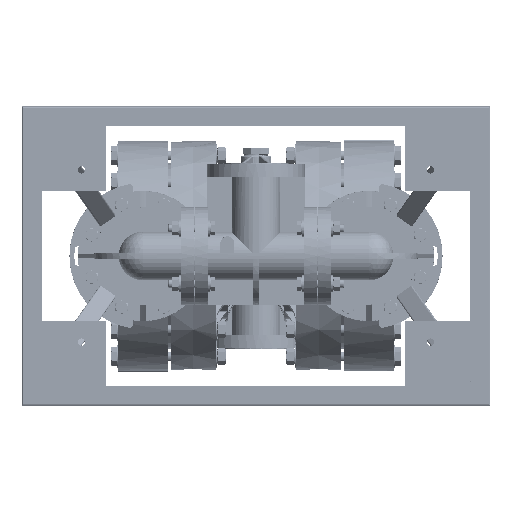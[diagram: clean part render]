
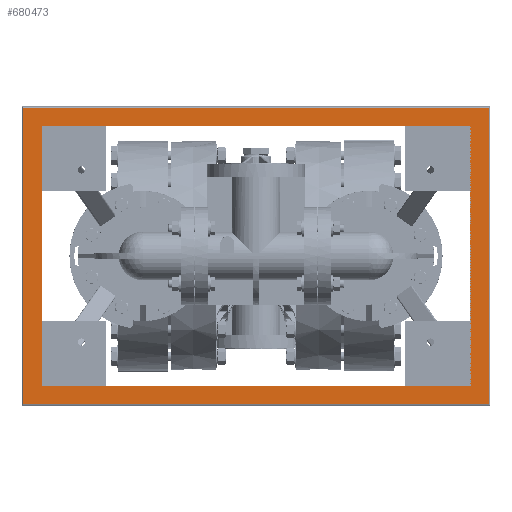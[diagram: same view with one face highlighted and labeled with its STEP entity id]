
A CAD part, front view. The second image highlights one B-rep face of the part: STEP entity #680473.
In plain terms, the highlighted planar face has unit normal (0, -1, 0).
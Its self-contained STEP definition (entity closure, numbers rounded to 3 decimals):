
#49429 = FACE_BOUND ( 'NONE', #68869, .T. ) ;
#63027 = EDGE_CURVE ( 'NONE', #442045, #528501, #512066, .T. ) ;
#68869 = EDGE_LOOP ( 'NONE', ( #655518, #529963, #307968, #427928 ) ) ;
#72889 = EDGE_CURVE ( 'NONE', #581167, #442045, #131781, .T. ) ;
#89578 = ORIENTED_EDGE ( 'NONE', *, *, #95522, .T. ) ;
#95522 = EDGE_CURVE ( 'NONE', #528501, #720667, #349864, .T. ) ;
#113985 = CARTESIAN_POINT ( 'NONE',  ( 17.89, -26.434, 11.39 ) ) ;
#131781 = LINE ( 'NONE', #371575, #475653 ) ;
#142897 = ORIENTED_EDGE ( 'NONE', *, *, #744663, .T. ) ;
#147245 = CARTESIAN_POINT ( 'NONE',  ( -17.89, -26.434, -11.39 ) ) ;
#182173 = EDGE_CURVE ( 'NONE', #258181, #576201, #778700, .T. ) ;
#212252 = DIRECTION ( 'NONE',  ( -1., 0., 0. ) ) ;
#218618 = CARTESIAN_POINT ( 'NONE',  ( 16.5, -26.434, -10. ) ) ;
#226066 = DIRECTION ( 'NONE',  ( -1., 0., 0. ) ) ;
#235779 = CARTESIAN_POINT ( 'NONE',  ( -16.5, -26.434, -10. ) ) ;
#246163 = VECTOR ( 'NONE', #398166, 39.37 ) ;
#256471 = VECTOR ( 'NONE', #226066, 39.37 ) ;
#258181 = VERTEX_POINT ( 'NONE', #510275 ) ;
#259563 = DIRECTION ( 'NONE',  ( 1., 0., 0. ) ) ;
#271138 = VERTEX_POINT ( 'NONE', #692270 ) ;
#286114 = LINE ( 'NONE', #338173, #246163 ) ;
#289265 = CARTESIAN_POINT ( 'NONE',  ( 0., -26.434, 0. ) ) ;
#293192 = FACE_OUTER_BOUND ( 'NONE', #465568, .T. ) ;
#303235 = ORIENTED_EDGE ( 'NONE', *, *, #72889, .T. ) ;
#307968 = ORIENTED_EDGE ( 'NONE', *, *, #182173, .F. ) ;
#316377 = VECTOR ( 'NONE', #467145, 39.37 ) ;
#323927 = EDGE_CURVE ( 'NONE', #271138, #258181, #428450, .T. ) ;
#325980 = VERTEX_POINT ( 'NONE', #524017 ) ;
#330568 = CARTESIAN_POINT ( 'NONE',  ( -17.89, -26.434, 11.39 ) ) ;
#331839 = ORIENTED_EDGE ( 'NONE', *, *, #63027, .T. ) ;
#338173 = CARTESIAN_POINT ( 'NONE',  ( -17.89, -26.434, 11.39 ) ) ;
#340016 = DIRECTION ( 'NONE',  ( 0., 0., 1. ) ) ;
#345268 = DIRECTION ( 'NONE',  ( 0., 1., 0. ) ) ;
#349864 = LINE ( 'NONE', #113985, #256471 ) ;
#357212 = AXIS2_PLACEMENT_3D ( 'NONE', #289265, #345268, #780672 ) ;
#368488 = VECTOR ( 'NONE', #372872, 39.37 ) ;
#371575 = CARTESIAN_POINT ( 'NONE',  ( -17.89, -26.434, -11.39 ) ) ;
#372872 = DIRECTION ( 'NONE',  ( 0., 0., 1. ) ) ;
#382343 = LINE ( 'NONE', #626134, #622367 ) ;
#398166 = DIRECTION ( 'NONE',  ( 0., 0., -1. ) ) ;
#400255 = VECTOR ( 'NONE', #340016, 39.37 ) ;
#412813 = CARTESIAN_POINT ( 'NONE',  ( 17.89, -26.434, 11.39 ) ) ;
#413142 = PLANE ( 'NONE',  #357212 ) ;
#427928 = ORIENTED_EDGE ( 'NONE', *, *, #323927, .F. ) ;
#428450 = LINE ( 'NONE', #672209, #523263 ) ;
#442045 = VERTEX_POINT ( 'NONE', #459185 ) ;
#459185 = CARTESIAN_POINT ( 'NONE',  ( 17.89, -26.434, -11.39 ) ) ;
#465568 = EDGE_LOOP ( 'NONE', ( #142897, #303235, #331839, #89578 ) ) ;
#467145 = DIRECTION ( 'NONE',  ( 0., 0., -1. ) ) ;
#475653 = VECTOR ( 'NONE', #259563, 39.37 ) ;
#503877 = EDGE_CURVE ( 'NONE', #325980, #271138, #694301, .T. ) ;
#510275 = CARTESIAN_POINT ( 'NONE',  ( -16.5, -26.434, 10. ) ) ;
#512066 = LINE ( 'NONE', #763620, #400255 ) ;
#523263 = VECTOR ( 'NONE', #212252, 39.37 ) ;
#524017 = CARTESIAN_POINT ( 'NONE',  ( 16.5, -26.434, -10. ) ) ;
#528501 = VERTEX_POINT ( 'NONE', #412813 ) ;
#529963 = ORIENTED_EDGE ( 'NONE', *, *, #562328, .F. ) ;
#562328 = EDGE_CURVE ( 'NONE', #576201, #325980, #382343, .T. ) ;
#576201 = VERTEX_POINT ( 'NONE', #235779 ) ;
#581167 = VERTEX_POINT ( 'NONE', #147245 ) ;
#614323 = DIRECTION ( 'NONE',  ( 1., 0., 0. ) ) ;
#622367 = VECTOR ( 'NONE', #614323, 39.37 ) ;
#626134 = CARTESIAN_POINT ( 'NONE',  ( -16.5, -26.434, -10. ) ) ;
#643124 = CARTESIAN_POINT ( 'NONE',  ( -16.5, -26.434, 10. ) ) ;
#655518 = ORIENTED_EDGE ( 'NONE', *, *, #503877, .F. ) ;
#672209 = CARTESIAN_POINT ( 'NONE',  ( 16.5, -26.434, 10. ) ) ;
#680473 = ADVANCED_FACE ( 'NONE', ( #293192, #49429 ), #413142, .F. ) ;
#692270 = CARTESIAN_POINT ( 'NONE',  ( 16.5, -26.434, 10. ) ) ;
#694301 = LINE ( 'NONE', #218618, #368488 ) ;
#720667 = VERTEX_POINT ( 'NONE', #330568 ) ;
#744663 = EDGE_CURVE ( 'NONE', #720667, #581167, #286114, .T. ) ;
#763620 = CARTESIAN_POINT ( 'NONE',  ( 17.89, -26.434, -11.39 ) ) ;
#778700 = LINE ( 'NONE', #643124, #316377 ) ;
#780672 = DIRECTION ( 'NONE',  ( 1., 0., 0. ) ) ;
